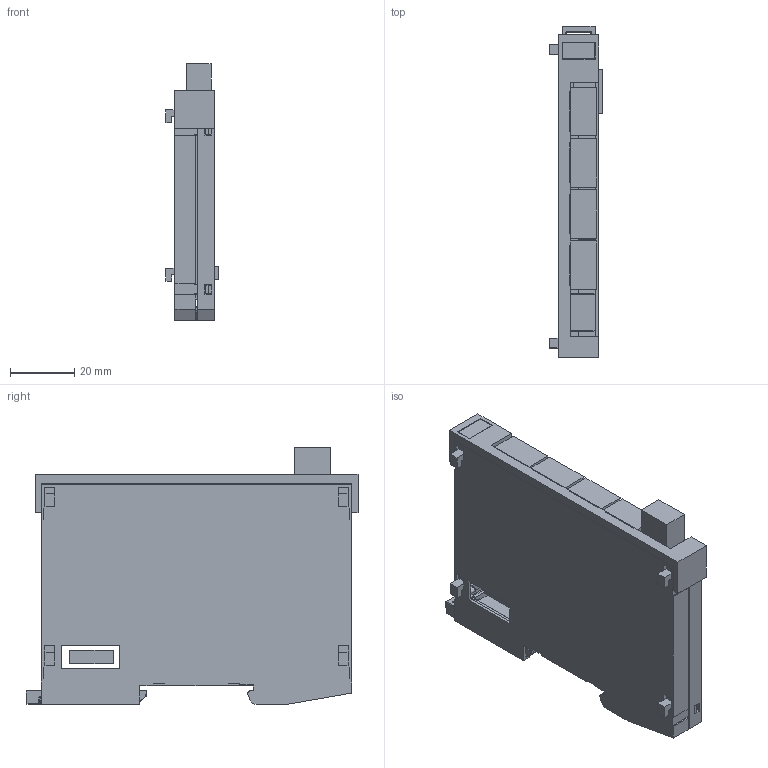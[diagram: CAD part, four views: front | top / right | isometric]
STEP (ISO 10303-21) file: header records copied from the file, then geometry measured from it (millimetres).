
FILE_DESCRIPTION (( 'STEP AP214' ), '1' );
FILE_NAME ('PSB001.STEP', '2016-03-15T12:23:07', ( 'SIGMATEK GmbH & Co KG' ), ( 'SIGMATEK GmbH & Co KG' ), 'SwSTEP 2.0', 'SolidWorks 2015', '' );
FILE_SCHEMA (( 'AUTOMOTIVE_DESIGN' ));
Length unit declared in the file: millimetre
Products named in the file (11): PSB001; Dummy_4080225345 Erni Buchse; LP_PSB001; Dummy_4110262171 3pol Stecker 1.5-6-st-3.5_1705386; Dummy_4110251244 3pol.Mini-Combic.Steckergrundg. RM 3,5 1844223; Steckerabdeckung_Var 9; S-Dias Rasthaken 20130313; Schieber_f Suport; S-Dias Schale rechts_f Suport; S-Dias Schale links_f Suport; 4110251342_MF 10-5 MC CABUR_1854510000
Assembly tree (13 placements, depth 3):
  PSB001
    4110251342_MF 10-5 MC CABUR_1854510000
    S-Dias Schale links_f Suport
    S-Dias Schale rechts_f Suport
    Schieber_f Suport
    S-Dias Rasthaken 20130313
    LP_PSB001
      Steckerabdeckung_Var 9  x4
      Dummy_4110251244 3pol.Mini-Combic.Steckergrundg. RM 3,5 1844223
      Dummy_4110262171 3pol Stecker 1.5-6-st-3.5_1705386
    Dummy_4080225345 Erni Buchse
Bounding box: 16.3 x 103.61 x 80.09 mm (x, y, z)
Volume: 23894.4 mm3; surface area: 42618.7 mm2
Topology: 12 solids, 12 shells, 998 faces, 2897 edges, 1918 vertices
Faces by surface type: plane 731, cylinder 156, bspline 55, cone 28, torus 15, sphere 13
Entity records: 31689 total; most frequent: CARTESIAN_POINT 7489, ORIENTED_EDGE 4720, DIRECTION 3695, EDGE_CURVE 2360, LINE 1693, VECTOR 1693, VERTEX_POINT 1568, AXIS2_PLACEMENT_3D 1001
